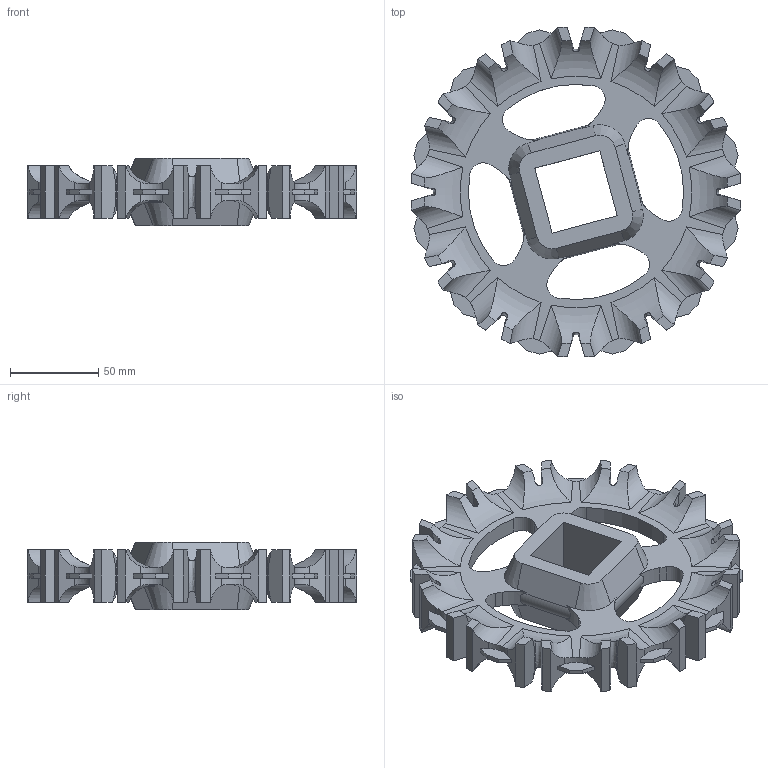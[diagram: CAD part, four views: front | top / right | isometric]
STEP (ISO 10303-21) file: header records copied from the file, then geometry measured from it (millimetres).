
FILE_DESCRIPTION((''),'2;1');
FILE_NAME('S800_EZCLEAN_77X15_40_SQ','2008-12-12T',('jmumphre'),(''),'PRO/ENGINEER BY PARAMETRIC TECHNOLOGY CORPORATION, 2008150','PRO/ENGINEER BY PARAMETRIC TECHNOLOGY CORPORATION, 2008150','');
FILE_SCHEMA(('CONFIG_CONTROL_DESIGN'));
Length unit declared in the file: inch
Products named in the file (1): S800_EZCLEAN_77X15_40_SQ
Bounding box: 186.41 x 186.41 x 38.1 mm (x, y, z)
Volume: 300854.1 mm3; surface area: 77249.9 mm2
Topology: 1 solids, 1 shells, 1117 faces, 3254 edges, 2169 vertices
Faces by surface type: plane 864, cylinder 184, bspline 36, torus 25, cone 8
Entity records: 40637 total; most frequent: CARTESIAN_POINT 11463, ORIENTED_EDGE 6508, DIRECTION 5415, EDGE_CURVE 3254, VECTOR 2541, LINE 2541, VERTEX_POINT 2169, AXIS2_PLACEMENT_3D 1437
